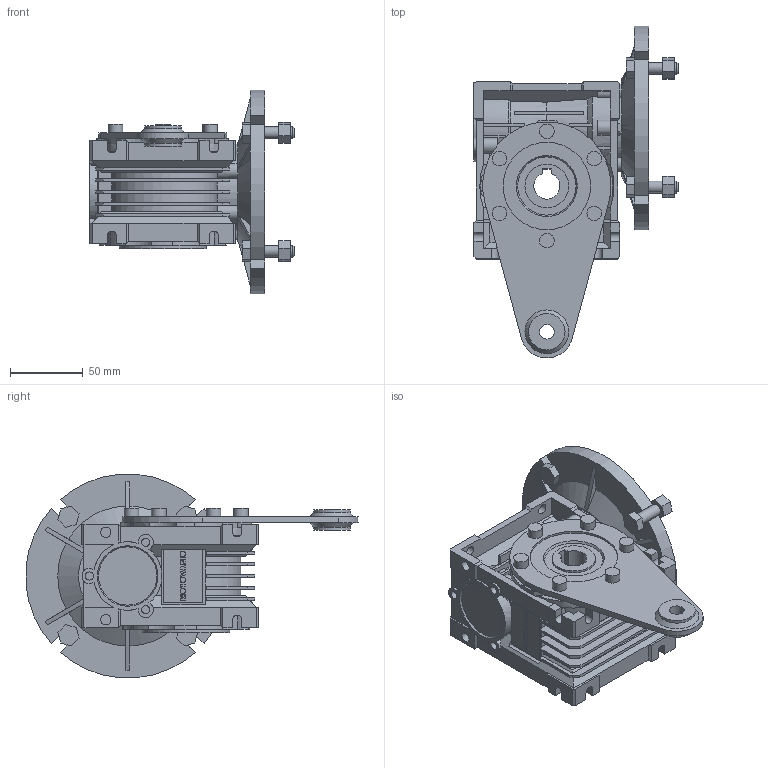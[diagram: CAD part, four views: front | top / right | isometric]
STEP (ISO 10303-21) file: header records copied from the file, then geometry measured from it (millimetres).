
FILE_DESCRIPTION(/* description */ ('STEP AP203'),/* implementation_level */ '2;1');
FILE_NAME(/* name */ 'NMRV0401281811100110NO---_---------------',/* time_stamp */ '2026-04-27T06:39:46+02:00',/* author */ ('License CC BY-ND 4.0'),/* organization */ ('CADENAS'),/* preprocessor_version */ 'ST-DEVELOPER v20',/* originating_system */ 'PARTsolutions',/* authorisation */ ' ');
FILE_SCHEMA (('CONFIG_CONTROL_DESIGN'));
Length unit declared in the file: millimetre
Products named in the file (6): NMRV0401281811100110NO---(---------------); Gear unit 40; 040-18 (78)alc-n; 40-100; VB 040-11 (11); 40-63 B5
Assembly tree (5 placements, depth 2):
  NMRV0401281811100110NO---(---------------)
    Gear unit 40
    040-18 (78)alc-n
    40-100
    VB 040-11 (11)
    40-63 B5
Bounding box: 140 x 227.7 x 139.55 mm (x, y, z)
Volume: 784225.7 mm3; surface area: 204026.2 mm2
Topology: 5 solids, 5 shells, 915 faces, 2455 edges, 1598 vertices
Faces by surface type: plane 648, cylinder 195, cone 70, torus 2
Full cylindrical faces by diameter (mm): 4.917 x8, 5.55 x3, 7 x6, 8 x8, 10 x13, 10.8 x4, 11 x6, 16 x1, 23 x2, 25 x2, 28 x1, 30 x2, 35 x1, 36 x1, 40 x1, 47 x1, 60 x3, 67.5 x1, 75 x1, 93.5 x1, 95 x1
Entity records: 28202 total; most frequent: CARTESIAN_POINT 5438, ORIENTED_EDGE 4676, DIRECTION 4616, EDGE_CURVE 2338, VERTEX_POINT 1577, AXIS2_PLACEMENT_3D 1541, LINE 1534, VECTOR 1534
